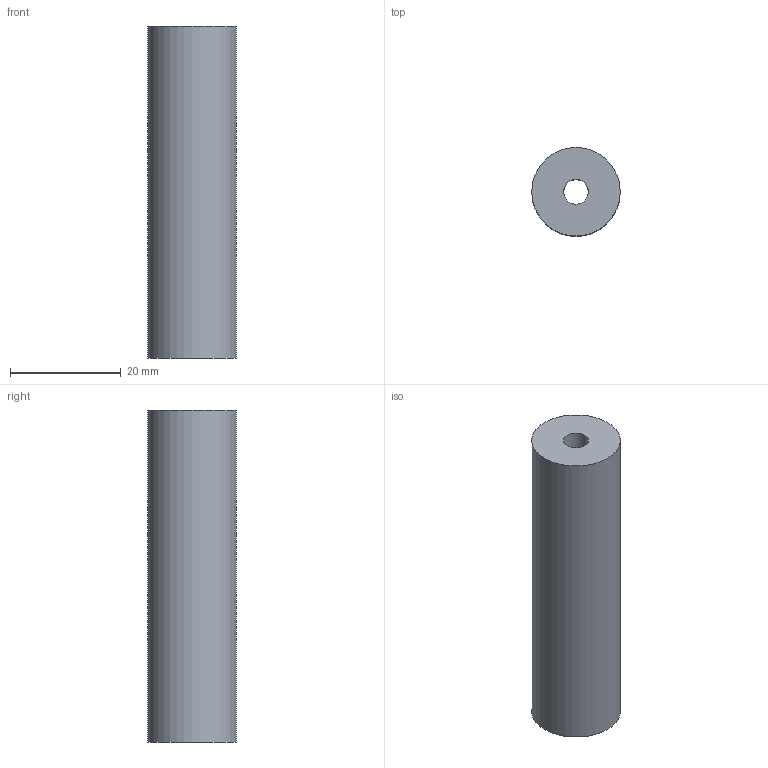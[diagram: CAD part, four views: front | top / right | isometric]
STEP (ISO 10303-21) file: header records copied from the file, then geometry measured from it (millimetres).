
FILE_DESCRIPTION(('Open CASCADE Model'),'2;1');
FILE_NAME('Open CASCADE Shape Model','2026-10-26T17:58:52',('Author'),( 'Open CASCADE'),'Open CASCADE STEP processor 7.9','Open CASCADE 7.9' ,'Unknown');
FILE_SCHEMA(('AUTOMOTIVE_DESIGN { 1 0 10303 214 1 1 1 1 }'));
Length unit declared in the file: millimetre
Products named in the file (1): Open CASCADE STEP translator 7.9 5
Bounding box: 16 x 16 x 60 mm (x, y, z)
Volume: 11109.5 mm3; surface area: 4234.5 mm2
Topology: 1 solids, 1 shells, 4 faces, 6 edges, 4 vertices
Faces by surface type: cylinder 2, plane 2
Full cylindrical faces by diameter (mm): 4.5 x1, 16 x1
Entity records: 186 total; most frequent: DIRECTION 32, CARTESIAN_POINT 27, ORIENTED_EDGE 12, PCURVE 12, DEFINITIONAL_REPRESENTATION 12, LINE 10, VECTOR 10, AXIS2_PLACEMENT_3D 9
